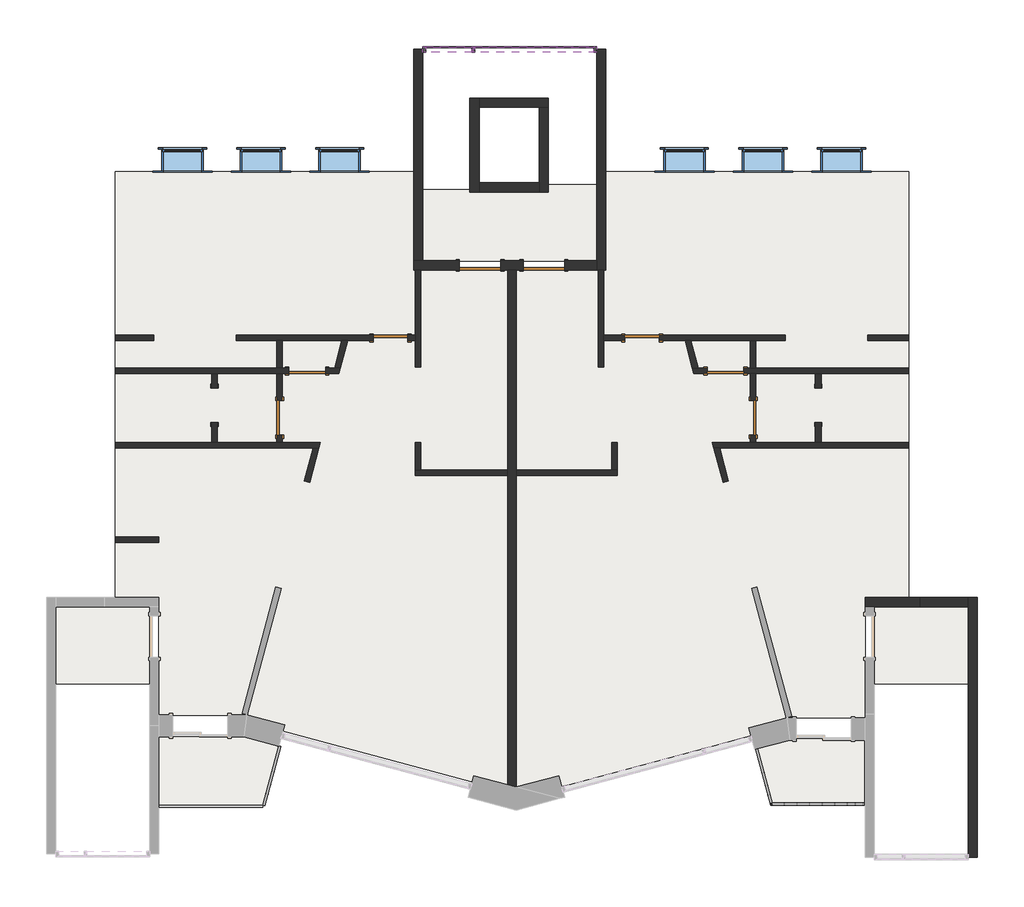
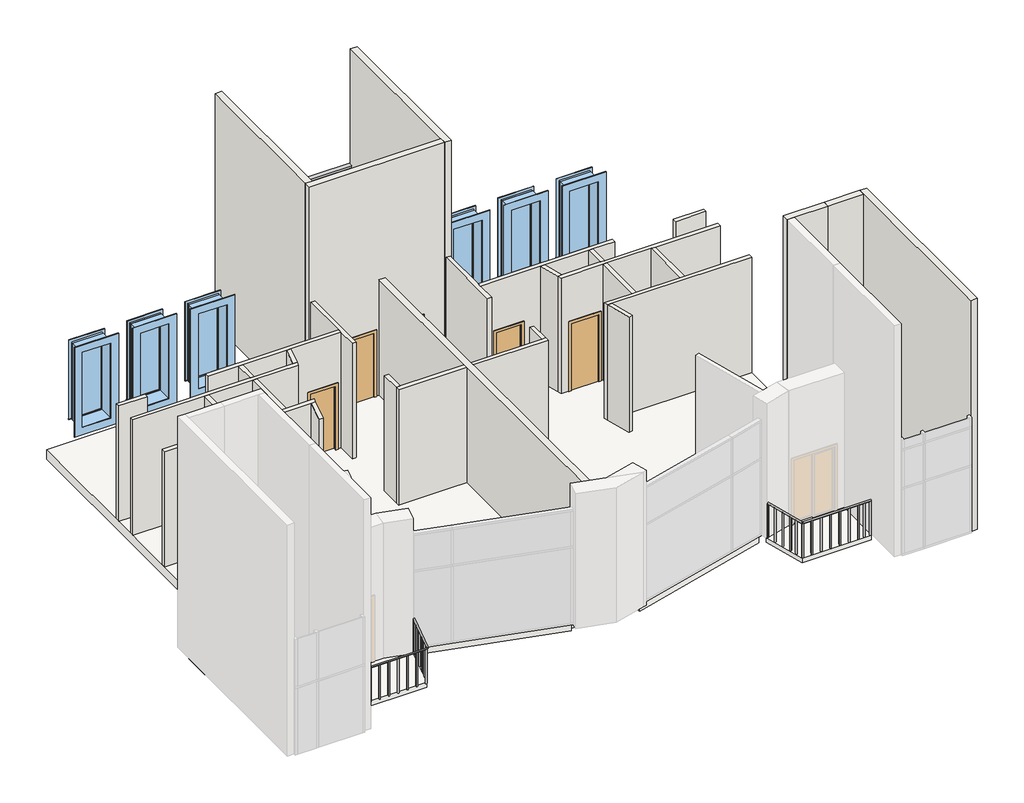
# One storey, part 2 of 2: 36 walls, 10 doors, 10 members, 6 windows, 5 slabs, 4 plates, 2 railings.
"""IFC4 building model written with IfcOpenShell, lengths in millimetres."""

from ifc_helpers import new_model, si_unit, frame, origin, place, context, project, spatial, polyline, outline, extrude, faceted_brep, transform, mapped, element, save
from components import door_1d05c9dd, door_63e5cb32, door_91cbdfe0, door_39079f6b, door_8a652669, door_d21431a2, door_4f2f89b6, door_09f6fe45, glazed_panel_glazed_panel_8a3da2d9, glazed_panel_glazed_panel_b2e43c1a, glazed_panel_glazed_panel_828ecd63, glazed_panel_glazed_panel_80578d28, guardrail_706f17a5, guardrail_720206c2, fixed_153df27d, fixed_cb3a47af

model = new_model("IFC4")

# Units and contexts
model_context = context("Model", 3, world=origin())
ifc_project = project(units=[si_unit("LENGTHUNIT", "METRE", prefix="MILLI")], contexts=[model_context])

# Site, building, storey
site = spatial("IfcSite", under=ifc_project)
building = spatial("IfcBuilding", under=site)
storey = spatial("IfcBuildingStorey", under=building, Name="3rd Flr. Cnst.", Elevation=7315.2)

# Doors
placement = place(None, origin())
door_shape = door_1d05c9dd(model_context)
element("IfcDoor", 1, ObjectType="Cased Opening : 30\" x 80\"", at=placement, inside=storey, context=model_context, shape_type="MappedRepresentation", body=[
    mapped(door_shape, transform((1154.389151, 4198.1652007, 7315.2), x_axis=(0.0, 1.0, 0.0), y_axis=(-1.0, 0.0, 0.0), z_axis=(0.0, 0.0, 1.0))),
])
door_2_shape = door_63e5cb32(model_context)
element("IfcDoor", 2, ObjectType="Cased Opening : 30\" x 80\"", at=placement, inside=storey, context=model_context, shape_type="MappedRepresentation", body=[
    mapped(door_2_shape, transform((14531.590723, 4198.1652007, 7315.2), x_axis=(0.0, 1.0, 0.0), y_axis=(-1.0, 0.0, 0.0), z_axis=(0.0, 0.0, 1.0))),
])
door_3_shape = door_91cbdfe0(model_context)
element("IfcDoor", 3, ObjectType="Sgl Flush : 30\" x 80\"", at=placement, inside=storey, context=model_context, shape_type="MappedRepresentation", body=[
    mapped(door_3_shape, transform((2598.9499515, 3921.9402007, 7315.2), x_axis=(0.0, -1.0, 0.0), y_axis=(1.0, 0.0, 0.0), z_axis=(0.0, 0.0, 1.0))),
])
element("IfcDoor", 4, ObjectType="Sgl Flush : 30\" x 80\"", at=placement, inside=storey, context=model_context, shape_type="MappedRepresentation", body=[
    mapped(door_3_shape, transform((10629.320756, 5693.5902007, 7315.2), x_axis=(-1.0, 0.0, 0.0), y_axis=(0.0, -1.0, 0.0), z_axis=(0.0, 0.0, 1.0))),
])
door_4_shape = door_39079f6b(model_context)
element("IfcDoor", 5, ObjectType="Sgl Flush : 30\" x 80\"", at=placement, inside=storey, context=model_context, shape_type="MappedRepresentation", body=[
    mapped(door_4_shape, transform((5056.659118, 5693.5902007, 7315.2), x_axis=(1.0, 0.0, 0.0), y_axis=(0.0, 1.0, 0.0), z_axis=(0.0, 0.0, 1.0))),
])
element("IfcDoor", 6, ObjectType="Sgl Flush : 30\" x 80\"", at=placement, inside=storey, context=model_context, shape_type="MappedRepresentation", body=[
    mapped(door_4_shape, transform((13087.0299225, 3921.9402007, 7315.2), x_axis=(0.0, -1.0, 0.0), y_axis=(1.0, 0.0, 0.0), z_axis=(0.0, 0.0, 1.0))),
])
door_5_shape = door_8a652669(model_context)
element("IfcDoor", 7, ObjectType="Sgl Flush : 32\" x 84\"", at=placement, inside=storey, context=model_context, shape_type="MappedRepresentation", body=[
    mapped(door_5_shape, transform((3208.5499515, 4960.1652007, 7315.2), x_axis=(-1.0, 0.0, 0.0), y_axis=(0.0, -1.0, 0.0), z_axis=(0.0, 0.0, 1.0))),
])
door_6_shape = door_d21431a2(model_context)
element("IfcDoor", 8, ObjectType="Sgl Flush : 32\" x 84\"", at=placement, inside=storey, context=model_context, shape_type="MappedRepresentation", body=[
    mapped(door_6_shape, transform((12477.4299225, 4960.1652007, 7315.2), x_axis=(1.0, 0.0, 0.0), y_axis=(0.0, 1.0, 0.0), z_axis=(0.0, 0.0, 1.0))),
])
door_7_shape = door_4f2f89b6(model_context)
element("IfcDoor", 9, ObjectType="Sgl Flush : 36\" x 80\"", at=placement, inside=storey, context=model_context, shape_type="MappedRepresentation", body=[
    mapped(door_7_shape, transform((8452.321618, 7303.0333186, 7315.2), x_axis=(-1.0, 0.0, 0.0), y_axis=(0.0, -1.0, 0.0), z_axis=(0.0, 0.0, 1.0))),
])
door_8_shape = door_09f6fe45(model_context)
element("IfcDoor", 10, ObjectType="Sgl Flush : 36\" x 80\"", at=placement, inside=storey, context=model_context, shape_type="MappedRepresentation", body=[
    mapped(door_8_shape, transform((7039.446618, 7303.0333186, 7315.2), x_axis=(1.0, 0.0, 0.0), y_axis=(0.0, 1.0, 0.0), z_axis=(0.0, 0.0, 1.0))),
])

# Members
element("IfcMember", 11, ObjectType="Rectangular Mullion : 2.5\" x 5\" rectangular", at=placement, inside=storey, context=model_context, shape_type="SweptSolid", body=[
    extrude(outline(polyline([(6917.209118, 12025.0152895), (6853.709118, 12025.0152895), (6853.709118, 12152.0152895), (6917.209118, 12152.0152895), (6917.209118, 12025.0152895)])), frame((0.0, 0.0, 7315.2), z_axis=(0.0, 0.0, 1.0), x_axis=(1.0, 0.0, 0.0)), (0.0, 0.0, 1.0), 2406.65),
])
element("IfcMember", 12, ObjectType="Rectangular Mullion : 2.5\" x 5\" rectangular", at=placement, inside=storey, context=model_context, shape_type="SweptSolid", body=[
    extrude(outline(polyline([(6917.209118, 12025.0152895), (6853.709118, 12025.0152895), (6853.709118, 12152.0152895), (6917.209118, 12152.0152895), (6917.209118, 12025.0152895)])), frame((0.0, 0.0, 9785.35), z_axis=(0.0, 0.0, 1.0), x_axis=(1.0, 0.0, 0.0)), (0.0, 0.0, 1.0), 1123.95),
])
element("IfcMember", 13, ObjectType="Rectangular Mullion : 2.5\" x 5\" rectangular", at=placement, inside=storey, context=model_context, shape_type="SweptSolid", body=[
    extrude(outline(polyline([(9618.6821195, 12025.0152895), (9555.1821195, 12025.0152895), (9555.1821195, 12152.0152895), (9618.6821195, 12152.0152895), (9618.6821195, 12025.0152895)])), frame((0.0, 0.0, 7315.2), z_axis=(0.0, 0.0, 1.0), x_axis=(1.0, 0.0, 0.0)), (0.0, 0.0, 1.0), 2406.65),
])
element("IfcMember", 14, ObjectType="Rectangular Mullion : 2.5\" x 5\" rectangular", at=placement, inside=storey, context=model_context, shape_type="SweptSolid", body=[
    extrude(outline(polyline([(9618.6821195, 12025.0152895), (9555.1821195, 12025.0152895), (9555.1821195, 12152.0152895), (9618.6821195, 12152.0152895), (9618.6821195, 12025.0152895)])), frame((0.0, 0.0, 9785.35), z_axis=(0.0, 0.0, 1.0), x_axis=(1.0, 0.0, 0.0)), (0.0, 0.0, 1.0), 1123.95),
])
element("IfcMember", 15, ObjectType="Rectangular Mullion : 2.5\" x 5\" rectangular", at=placement, inside=storey, context=model_context, shape_type="SweptSolid", body=[
    extrude(outline(polyline([(6885.459118, 12152.0152895), (6885.459118, 12025.0152895), (5767.859118, 12025.0152895), (5767.859118, 12152.0152895), (6885.459118, 12152.0152895)])), frame((0.0, 0.0, 9721.85), z_axis=(0.0, 0.0, 1.0), x_axis=(1.0, 0.0, 0.0)), (0.0, 0.0, 1.0), 63.5),
])
element("IfcMember", 16, ObjectType="Rectangular Mullion : 2.5\" x 5\" rectangular", at=placement, inside=storey, context=model_context, shape_type="SweptSolid", body=[
    extrude(outline(polyline([(9618.6821195, 12152.0152895), (9618.6821195, 12025.0152895), (6885.459118, 12025.0152895), (6885.459118, 12152.0152895), (9618.6821195, 12152.0152895)])), frame((0.0, 0.0, 9721.85), z_axis=(0.0, 0.0, 1.0), x_axis=(1.0, 0.0, 0.0)), (0.0, 0.0, 1.0), 63.5),
])
element("IfcMember", 17, ObjectType="Rectangular Mullion : 2.5\" x 5\" rectangular", at=placement, inside=storey, context=model_context, shape_type="SweptSolid", body=[
    extrude(outline(polyline([(5767.859118, 12025.0152895), (5767.859118, 12152.0152895), (5831.359118, 12152.0152895), (5831.359118, 12025.0152895), (5767.859118, 12025.0152895)])), frame((0.0, 0.0, 9785.35), z_axis=(0.0, 0.0, 1.0), x_axis=(1.0, 0.0, 0.0)), (0.0, 0.0, 1.0), 1123.95),
])
element("IfcMember", 18, ObjectType="Rectangular Mullion : 2.5\" x 5\" rectangular", at=placement, inside=storey, context=model_context, shape_type="SweptSolid", body=[
    extrude(outline(polyline([(5767.859118, 12025.0152895), (5767.859118, 12152.0152895), (5831.359118, 12152.0152895), (5831.359118, 12025.0152895), (5767.859118, 12025.0152895)])), frame((0.0, 0.0, 7315.2), z_axis=(0.0, 0.0, 1.0), x_axis=(1.0, 0.0, 0.0)), (0.0, 0.0, 1.0), 2406.65),
])
element("IfcMember", 19, ObjectType="Rectangular Mullion : 2.5\" x 5\" rectangular", at=placement, inside=storey, context=model_context, shape_type="SweptSolid", body=[
    extrude(outline(polyline([(9618.6821195, 12152.0152895), (9618.6821195, 12025.0152895), (6885.459118, 12025.0152895), (6885.459118, 12152.0152895), (9618.6821195, 12152.0152895)])), frame((0.0, 0.0, 10909.3), z_axis=(0.0, 0.0, 1.0), x_axis=(1.0, 0.0, 0.0)), (0.0, 0.0, 1.0), 63.5),
])
element("IfcMember", 20, ObjectType="Rectangular Mullion : 2.5\" x 5\" rectangular", at=placement, inside=storey, context=model_context, shape_type="SweptSolid", body=[
    extrude(outline(polyline([(6885.459118, 12152.0152895), (6885.459118, 12025.0152895), (5767.859118, 12025.0152895), (5767.859118, 12152.0152895), (6885.459118, 12152.0152895)])), frame((0.0, 0.0, 10909.3), z_axis=(0.0, 0.0, 1.0), x_axis=(1.0, 0.0, 0.0)), (0.0, 0.0, 1.0), 63.5),
])

# Plates
glazed_panel_glazed_panel_shape = glazed_panel_glazed_panel_8a3da2d9(model_context)
element("IfcPlate", 21, ObjectType="Glazed Panel : Glazed Panel", at=placement, inside=storey, context=model_context, shape_type="MappedRepresentation", body=[
    mapped(glazed_panel_glazed_panel_shape, transform((6342.534118, 12088.5152895, 9785.35), x_axis=(1.0, 0.0, 0.0), y_axis=(0.0, 1.0, 0.0), z_axis=(0.0, 0.0, 1.0))),
])
glazed_panel_glazed_panel_2_shape = glazed_panel_glazed_panel_b2e43c1a(model_context)
element("IfcPlate", 22, ObjectType="Glazed Panel : Glazed Panel", at=placement, inside=storey, context=model_context, shape_type="MappedRepresentation", body=[
    mapped(glazed_panel_glazed_panel_2_shape, transform((8236.1956187, 12088.5152895, 9785.35), x_axis=(1.0, 0.0, 0.0), y_axis=(0.0, 1.0, 0.0), z_axis=(0.0, 0.0, 1.0))),
])
glazed_panel_glazed_panel_3_shape = glazed_panel_glazed_panel_828ecd63(model_context)
element("IfcPlate", 23, ObjectType="Glazed Panel : Glazed Panel", at=placement, inside=storey, context=model_context, shape_type="MappedRepresentation", body=[
    mapped(glazed_panel_glazed_panel_3_shape, transform((6342.534118, 12088.5152895, 7315.2), x_axis=(1.0, 0.0, 0.0), y_axis=(0.0, 1.0, 0.0), z_axis=(0.0, 0.0, 1.0))),
])
glazed_panel_glazed_panel_4_shape = glazed_panel_glazed_panel_80578d28(model_context)
element("IfcPlate", 24, ObjectType="Glazed Panel : Glazed Panel", at=placement, inside=storey, context=model_context, shape_type="MappedRepresentation", body=[
    mapped(glazed_panel_glazed_panel_4_shape, transform((8236.1956187, 12088.5152895, 7315.2), x_axis=(1.0, 0.0, 0.0), y_axis=(0.0, 1.0, 0.0), z_axis=(0.0, 0.0, 1.0))),
])

# Railings
guardrail_shape = guardrail_706f17a5(model_context)
element("IfcRailing", 25, ObjectType="Guardrail", at=placement, inside=storey, context=model_context, shape_type="MappedRepresentation", body=[
    mapped(guardrail_shape, transform((0.0, 0.0, 0.0), x_axis=(1.0, 0.0, 0.0), y_axis=(0.0, 1.0, 0.0), z_axis=(0.0, 0.0, 1.0))),
])
guardrail_2_shape = guardrail_720206c2(model_context)
element("IfcRailing", 26, ObjectType="Guardrail", at=placement, inside=storey, context=model_context, shape_type="MappedRepresentation", body=[
    mapped(guardrail_2_shape, transform((0.0, 0.0, 0.0), x_axis=(1.0, 0.0, 0.0), y_axis=(0.0, 1.0, 0.0), z_axis=(0.0, 0.0, 1.0))),
])

# Slabs
element("IfcSlab", 27, ObjectType="Balcony", at=placement, inside=storey, context=model_context, shape_type="SweptSolid", body=[
    extrude(outline(polyline([(-79.7882773, -4665.9615122), (-79.7882773, -3146.0360863), (1799.5068523, -3146.0360863), (2575.4903005, -3353.9602245), (2223.940615, -4665.9615122), (-79.7882773, -4665.9615122)])), frame((0.0, 0.0, 7162.8), z_axis=(0.0, 0.0, 1.0), x_axis=(1.0, 0.0, 0.0)), (0.0, 0.0, 1.0), 152.4),
])
element("IfcSlab", 28, ObjectType="Balcony", at=placement, inside=storey, context=model_context, shape_type="SweptSolid", body=[
    extrude(outline(polyline([(15549.0835198, -4665.9615122), (13474.0934545, -4665.9615122), (13133.7402783, -3395.7461659), (13878.4113024, -3196.2121664), (15549.0835198, -3196.2121664), (15549.0835198, -4665.9615122)])), frame((0.0, 0.0, 7162.8), z_axis=(0.0, 0.0, 1.0), x_axis=(1.0, 0.0, 0.0)), (0.0, 0.0, 1.0), 152.4),
])
element("IfcSlab", 29, ObjectType="Floor 1", at=placement, inside=storey, context=model_context, shape_type="SweptSolid", body=[
    extrude(outline(polyline([(9619.2126579, 7397.5342127), (5768.3896565, 7397.5342127), (5768.3896565, 8979.5661862), (6814.1405221, 8979.5661862), (6814.1405221, 8921.5342127), (8552.4126579, 8921.5342127), (8550.2528676, 9090.8355855), (9619.2126579, 9090.8355855), (9619.2126579, 7397.5342127)])), frame((0.0, 0.0, 7010.4), z_axis=(0.0, 0.0, 1.0), x_axis=(1.0, 0.0, 0.0)), (0.0, 0.0, 1.0), 304.8),
])
element("IfcSlab", 30, ObjectType="Floor 1", at=placement, inside=storey, context=model_context, shape_type="SweptSolid", body=[
    extrude(outline(polyline([(-2361.3002317, -279.0545325), (-278.5002317, -279.0545325), (-278.5002317, -1979.7458852), (-2361.3002317, -1979.7458852), (-2361.3002317, -279.0545325)])), frame((0.0, 0.0, 7010.4), z_axis=(0.0, 0.0, 1.0), x_axis=(1.0, 0.0, 0.0)), (0.0, 0.0, 1.0), 304.8),
    extrude(outline(polyline([(15779.0622683, -274.2920325), (17861.8622683, -274.2920325), (17861.8622683, -1974.9833852), (15779.0622683, -1974.9833852), (15779.0622683, -274.2920325)])), frame((0.0, 0.0, 7010.4), z_axis=(0.0, 0.0, 1.0), x_axis=(1.0, 0.0, 0.0)), (0.0, 0.0, 1.0), 304.8),
])
element("IfcSlab", 31, ObjectType="Floor 1", at=placement, inside=storey, context=model_context, shape_type="SweptSolid", body=[
    extrude(outline(polyline([(-1046.6671832, 9380.315854), (4949.3203168, 9380.315854), (5558.9203168, 9380.315854), (5558.9203168, 7192.740854), (9818.5371021, 7192.740854), (9818.5371021, 9380.315854), (16531.7453846, 9380.315854), (16531.7453846, -71.659146), (15568.1328846, -71.659146), (15565.7391007, -2734.3502435), (13829.2324063, -2734.3502435), (13006.8259977, -2954.7133765), (13054.4875249, -3132.5886175), (8843.0439026, -4261.041535), (8777.4549844, -4016.26036), (7785.4605205, -4282.0644755), (6888.0698545, -4011.3298572), (6852.4040642, -4144.4363989), (2656.3818501, -3020.1156352), (2692.0476405, -2887.0090935), (1869.6412319, -2666.6459605), (1744.4692088, -2668.809146), (-83.0546832, -2668.809146), (-83.0546832, -71.659146), (-1046.6671832, -71.659146), (-1046.6671832, 9380.315854)])), frame((0.0, 0.0, 7010.4), z_axis=(0.0, 0.0, 1.0), x_axis=(1.0, 0.0, 0.0)), (0.0, 0.0, 1.0), 304.8),
])

# Walls
element("IfcWall", 32, ObjectType="Cohouse - Exterior - Conc", at=placement, inside=storey, context=model_context, shape_type="Brep", body=[
    faceted_brep([(9821.8821195, 7201.4333186, 7315.2), (9821.8821195, 12088.5152895, 7315.2), (9821.8821195, 12088.5152895, 14630.4), (9821.8821195, 7201.4333186, 14630.4), (9618.6821195, 7201.4333186, 7315.2), (9618.6821195, 7201.4333186, 14630.4), (9618.6821195, 7404.6333186, 14630.4), (9618.6821195, 12088.5152895, 14630.4), (9618.6821195, 12088.5152895, 7315.2), (9618.6821195, 7404.6333186, 7315.2), (9782.1946195, 7201.4333186, 7315.2), (9658.3696195, 7201.4333186, 7315.2)], [[[0, 1, 2, 3]], [[4, 5, 6, 7, 8, 9]], [[1, 0, 10, 11, 4, 9, 8]], [[2, 1, 8, 7]], [[3, 2, 7, 6, 5]], [[0, 3, 5, 4, 11, 10]]]),
])
element("IfcWall", 33, ObjectType="Cohouse - Exterior - Conc", at=placement, inside=storey, context=model_context, shape_type="Brep", body=[
    faceted_brep([(7016.8099837, 8928.6333186, 7315.2), (7016.8099837, 9131.8333186, 7315.2), (7016.8099837, 10803.1376461, 7315.2), (7016.8099837, 11006.3376461, 7315.2), (7016.8099837, 11006.3376461, 10972.8), (7016.8099837, 10803.1376461, 10972.8), (7016.8099837, 9131.8333186, 10972.8), (7016.8099837, 8928.6333186, 10972.8), (6813.6099837, 8928.6333186, 7315.2), (6813.6099837, 8928.6333186, 10972.8), (6813.6099837, 11006.3376461, 10972.8), (6813.6099837, 11006.3376461, 7315.2)], [[[0, 1, 2, 3, 4, 5, 6, 7]], [[8, 9, 10, 11]], [[3, 2, 1, 0, 8, 11]], [[7, 6, 5, 4, 10, 9]], [[4, 3, 11, 10]], [[0, 7, 9, 8]]]),
])
element("IfcWall", 34, ObjectType="Cohouse - Exterior - Conc", at=placement, inside=storey, context=model_context, shape_type="Brep", body=[
    faceted_brep([(7016.8099837, 10803.1376461, 7315.2), (8348.6821195, 10803.1376461, 7315.2), (8551.8821195, 10803.1376461, 7315.2), (8551.8821195, 10803.1376461, 10972.8), (8348.6821195, 10803.1376461, 10972.8), (7016.8099837, 10803.1376461, 10972.8), (7016.8099837, 11006.3376461, 7315.2), (7016.8099837, 11006.3376461, 10972.8), (8551.8821195, 11006.3376461, 10972.8), (8551.8821195, 11006.3376461, 7315.2)], [[[0, 1, 2, 3, 4, 5]], [[6, 7, 8, 9]], [[2, 1, 0, 6, 9]], [[5, 4, 3, 8, 7]], [[3, 2, 9, 8]], [[0, 5, 7, 6]]]),
])
element("IfcWall", 35, ObjectType="Cohouse - Exterior - Conc", at=placement, inside=storey, context=model_context, shape_type="Brep", body=[
    faceted_brep([(8348.6821195, 10803.1376461, 7315.2), (8348.6821195, 9131.8333186, 7315.2), (8348.6821195, 8928.6333186, 7315.2), (8348.6821195, 8928.6333186, 10972.8), (8348.6821195, 9131.8333186, 10972.8), (8348.6821195, 10803.1376461, 10972.8), (8551.8821195, 10803.1376461, 7315.2), (8551.8821195, 10803.1376461, 10972.8), (8551.8821195, 8928.6333186, 10972.8), (8551.8821195, 8928.6333186, 7315.2)], [[[0, 1, 2, 3, 4, 5]], [[6, 7, 8, 9]], [[2, 1, 0, 6, 9]], [[5, 4, 3, 8, 7]], [[3, 2, 9, 8]], [[0, 5, 7, 6]]]),
])
element("IfcWall", 36, ObjectType="Cohouse - Exterior - Conc", at=placement, inside=storey, context=model_context, shape_type="SweptSolid", body=[
    extrude(outline(polyline([(8348.6821195, 8928.6333186), (7016.8099837, 8928.6333186), (7016.8099837, 9131.8333186), (8348.6821195, 9131.8333186), (8348.6821195, 8928.6333186)])), frame((0.0, 0.0, 7315.2), z_axis=(0.0, 0.0, 1.0), x_axis=(1.0, 0.0, 0.0)), (0.0, 0.0, 1.0), 3657.6),
])
element("IfcWall", 37, ObjectType="Cohouse - Exterior - Conc", at=placement, inside=storey, context=model_context, shape_type="Brep", body=[
    faceted_brep([(7496.646618, 7201.4333186, 7315.2), (7649.046618, 7201.4333186, 7315.2), (7842.721618, 7201.4333186, 7315.2), (7995.121618, 7201.4333186, 7315.2), (7995.121618, 7201.4333186, 9347.2), (8909.521618, 7201.4333186, 9347.2), (8909.521618, 7201.4333186, 7315.2), (9618.6821195, 7201.4333186, 7315.2), (9618.6821195, 7201.4333186, 14630.4), (5564.659118, 7201.4333186, 14630.4), (5564.659118, 7201.4333186, 7315.2), (5604.346618, 7201.4333186, 7315.2), (5728.171618, 7201.4333186, 7315.2), (6582.246618, 7201.4333186, 7315.2), (6582.246618, 7201.4333186, 9347.2), (7496.646618, 7201.4333186, 9347.2), (7995.121618, 7404.6333186, 9347.2), (7995.121618, 7404.6333186, 7315.2), (7496.646618, 7404.6333186, 7315.2), (7496.646618, 7404.6333186, 9347.2), (6582.246618, 7404.6333186, 9347.2), (6582.246618, 7404.6333186, 7315.2), (5767.859118, 7404.6333186, 7315.2), (5564.659118, 7404.6333186, 7315.2), (5564.659118, 7404.6333186, 14630.4), (5767.859118, 7404.6333186, 14630.4), (9618.6821195, 7404.6333186, 14630.4), (9618.6821195, 7404.6333186, 7315.2), (8909.521618, 7404.6333186, 7315.2), (8909.521618, 7404.6333186, 9347.2)], [[[0, 1, 2, 3, 4, 5, 6, 7, 8, 9, 10, 11, 12, 13, 14, 15]], [[16, 17, 18, 19, 20, 21, 22, 23, 24, 25, 26, 27, 28, 29]], [[18, 17, 3, 2, 1, 0]], [[13, 12, 11, 10, 23, 22, 21]], [[28, 27, 7, 6]], [[9, 8, 26, 25, 24]], [[10, 9, 24, 23]], [[8, 7, 27, 26]], [[19, 18, 0, 15]], [[20, 19, 15, 14]], [[21, 20, 14, 13]], [[4, 3, 17, 16]], [[5, 4, 16, 29]], [[6, 5, 29, 28]]]),
])
element("IfcWall", 38, ObjectType="Cohouse - Exterior - Conc", at=placement, inside=storey, context=model_context, shape_type="SweptSolid", body=[
    extrude(outline(polyline([(5767.859118, 12088.5152895), (5767.859118, 7404.6333186), (5564.659118, 7404.6333186), (5564.659118, 12088.5152895), (5767.859118, 12088.5152895)])), frame((0.0, 0.0, 7315.2), z_axis=(0.0, 0.0, 1.0), x_axis=(1.0, 0.0, 0.0)), (0.0, 0.0, 1.0), 7315.2),
])
element("IfcWall", 39, ObjectType="Cohouse - Exterior - Conc", at=placement, inside=storey, context=model_context, shape_type="Brep", body=[
    faceted_brep([(15569.084118, -266.1666814, 7315.2), (15772.284118, -266.1666814, 7315.2), (16785.109118, -266.1666814, 7315.2), (16785.109118, -266.1666814, 14630.4), (15772.284118, -266.1666814, 14630.4), (15569.084118, -266.1666814, 14630.4), (15569.084118, -62.9666814, 7315.2), (15569.084118, -62.9666814, 14630.4), (16785.109118, -62.9666814, 14630.4), (16785.109118, -62.9666814, 7315.2), (16785.109118, -69.6992683, 7315.2)], [[[0, 1, 2, 3, 4, 5]], [[6, 7, 8, 9]], [[2, 1, 0, 6, 9, 10]], [[3, 2, 10, 9, 8]], [[5, 4, 3, 8, 7]], [[0, 5, 7, 6]]]),
])
element("IfcWall", 40, ObjectType="Cohouse - Exterior - Conc", at=placement, inside=storey, context=model_context, shape_type="Brep", body=[
    faceted_brep([(17855.084118, -62.9666814, 7315.2), (17855.084118, -69.6992683, 7315.2), (17855.084118, -266.1666814, 7315.2), (17855.084118, -5816.4636494, 7315.2), (17855.084118, -5816.4636494, 14630.4), (17855.084118, -266.1666814, 14630.4), (17855.084118, -62.9666814, 14630.4), (18058.284118, -62.9666814, 7315.2), (18058.284118, -62.9666814, 14630.4), (18058.284118, -5816.4636494, 14630.4), (18058.284118, -5816.4636494, 7315.2), (18058.284118, -69.6992683, 7315.2)], [[[0, 1, 2, 3, 4, 5, 6]], [[7, 8, 9, 10, 11]], [[3, 2, 1, 0, 7, 11, 10]], [[4, 3, 10, 9]], [[6, 5, 4, 9, 8]], [[0, 6, 8, 7]]]),
])
element("IfcWall", 41, ObjectType="Cohouse - Exterior - Conc", at=placement, inside=storey, context=model_context, shape_type="Brep", body=[
    faceted_brep([(16785.109118, -266.1666814, 7315.2), (17855.084118, -266.1666814, 7315.2), (17855.084118, -266.1666814, 14630.4), (16785.109118, -266.1666814, 14630.4), (16785.109118, -62.9666814, 7315.2), (16785.109118, -62.9666814, 14630.4), (17855.084118, -62.9666814, 14630.4), (17855.084118, -62.9666814, 7315.2), (16785.109118, -69.6992683, 7315.2)], [[[0, 1, 2, 3]], [[4, 5, 6, 7]], [[1, 0, 8, 4, 7]], [[3, 2, 6, 5]], [[0, 3, 5, 4, 8]], [[2, 1, 7, 6]]]),
])
element("IfcWall", 42, ObjectType="Cohouse - Interior - 4 7/8\" Partition (1-hr)", at=placement, inside=storey, context=model_context, shape_type="Brep", body=[
    faceted_brep([(5604.346618, 7201.4333186, 7315.2), (5604.346618, 5755.5027007, 7315.2), (5604.346618, 5631.6777007, 7315.2), (5604.346618, 5050.6527007, 7315.2), (5604.346618, 5050.6527007, 10972.8), (5604.346618, 5631.6777007, 10972.8), (5604.346618, 5755.5027007, 10972.8), (5604.346618, 7201.4333186, 10972.8), (5728.171618, 7201.4333186, 7315.2), (5728.171618, 7201.4333186, 10972.8), (5728.171618, 5050.6527007, 10972.8), (5728.171618, 5050.6527007, 7315.2)], [[[0, 1, 2, 3, 4, 5, 6, 7]], [[8, 9, 10, 11]], [[3, 2, 1, 0, 8, 11]], [[4, 3, 11, 10]], [[7, 6, 5, 4, 10, 9]], [[0, 7, 9, 8]]]),
])
element("IfcWall", 43, ObjectType="Cohouse - Interior - 4 7/8\" Partition (1-hr)", at=placement, inside=storey, context=model_context, shape_type="Brep", body=[
    faceted_brep([(-1045.690882, 3250.4277007, 7315.2), (3338.9393518, 3250.4277007, 7315.2), (3467.1324248, 3250.4277007, 7315.2), (3467.1324248, 3250.4277007, 10972.8), (3338.9393518, 3250.4277007, 10972.8), (-1045.690882, 3250.4277007, 10972.8), (-1045.690882, 3374.2527007, 7315.2), (-1045.690882, 3374.2527007, 10972.8), (1092.476651, 3374.2527007, 10972.8), (1216.301651, 3374.2527007, 10972.8), (2537.0374515, 3374.2527007, 10972.8), (2660.8624515, 3374.2527007, 10972.8), (3500.3112336, 3374.2527007, 10972.8), (3500.3112336, 3374.2527007, 7315.2), (2660.8624515, 3374.2527007, 7315.2), (2537.0374515, 3374.2527007, 7315.2), (1216.301651, 3374.2527007, 7315.2), (1092.476651, 3374.2527007, 7315.2)], [[[0, 1, 2, 3, 4, 5]], [[6, 7, 8, 9, 10, 11, 12, 13, 14, 15, 16, 17]], [[2, 1, 0, 6, 17, 16, 15, 14, 13]], [[5, 4, 3, 12, 11, 10, 9, 8, 7]], [[3, 2, 13, 12]], [[0, 5, 7, 6]]]),
])
element("IfcWall", 44, ObjectType="Cohouse - Interior - 4 7/8\" Partition (1-hr)", at=placement, inside=storey, context=model_context, shape_type="SweptSolid", body=[
    extrude(outline(polyline([(3467.1324248, 3250.4277007), (3264.135703, 2492.8336212), (3144.5299376, 2524.8818895), (3338.9393518, 3250.4277007), (3467.1324248, 3250.4277007)])), frame((0.0, 0.0, 7315.2), z_axis=(0.0, 0.0, 1.0), x_axis=(1.0, 0.0, 0.0)), (0.0, 0.0, 1.0), 3657.6),
])
element("IfcWall", 45, ObjectType="Cohouse - Interior - 4 7/8\" Partition (1-hr)", at=placement, inside=storey, context=model_context, shape_type="Brep", body=[
    faceted_brep([(7649.046618, 2764.6527007, 7315.2), (5728.171618, 2764.6527007, 7315.2), (5604.346618, 2764.6527007, 7315.2), (5604.346618, 2764.6527007, 10972.8), (5728.171618, 2764.6527007, 10972.8), (7649.046618, 2764.6527007, 10972.8), (7649.046618, 2640.8277007, 7315.2), (7649.046618, 2640.8277007, 10972.8), (5604.346618, 2640.8277007, 10972.8), (5604.346618, 2640.8277007, 7315.2)], [[[0, 1, 2, 3, 4, 5]], [[6, 7, 8, 9]], [[2, 1, 0, 6, 9]], [[5, 4, 3, 8, 7]], [[3, 2, 9, 8]], [[0, 5, 7, 6]]]),
])
element("IfcWall", 46, ObjectType="Cohouse - Interior - 4 7/8\" Partition (1-hr)", at=placement, inside=storey, context=model_context, shape_type="SweptSolid", body=[
    extrude(outline(polyline([(5728.171618, 3374.2527007), (5728.171618, 2764.6527007), (5604.346618, 2764.6527007), (5604.346618, 3374.2527007), (5728.171618, 3374.2527007)])), frame((0.0, 0.0, 7315.2), z_axis=(0.0, 0.0, 1.0), x_axis=(1.0, 0.0, 0.0)), (0.0, 0.0, 1.0), 3657.6),
])
element("IfcWall", 47, ObjectType="Cohouse - Interior - 4 7/8\" Partition (1-hr)", at=placement, inside=storey, context=model_context, shape_type="SweptSolid", body=[
    extrude(outline(polyline([(-77.315882, 1156.2333186), (-1045.690882, 1156.2333186), (-1045.690882, 1280.0583186), (-77.315882, 1280.0583186), (-77.315882, 1156.2333186)])), frame((0.0, 0.0, 7315.2), z_axis=(0.0, 0.0, 1.0), x_axis=(1.0, 0.0, 0.0)), (0.0, 0.0, 1.0), 3657.6),
])
element("IfcWall", 48, ObjectType="Cohouse - Interior - 4 7/8\" Partition (1-hr)", at=placement, inside=storey, context=model_context, shape_type="Brep", body=[
    faceted_brep([(-1045.690882, 4898.2527007, 7315.2), (1092.476651, 4898.2527007, 7315.2), (1216.301651, 4898.2527007, 7315.2), (2537.0374515, 4898.2527007, 7315.2), (2660.8624515, 4898.2527007, 7315.2), (2802.1499515, 4898.2527007, 7315.2), (2802.1499515, 4898.2527007, 9448.8), (3614.9499515, 4898.2527007, 9448.8), (3614.9499515, 4898.2527007, 7315.2), (3908.6658028, 4898.2527007, 7315.2), (3908.6658028, 4898.2527007, 10972.8), (2660.8624515, 4898.2527007, 10972.8), (2537.0374515, 4898.2527007, 10972.8), (1216.301651, 4898.2527007, 10972.8), (1092.476651, 4898.2527007, 10972.8), (-1045.690882, 4898.2527007, 10972.8), (2802.1499515, 5022.0777007, 9448.8), (2802.1499515, 5022.0777007, 7315.2), (2660.8624515, 5022.0777007, 7315.2), (2537.0374515, 5022.0777007, 7315.2), (-1045.690882, 5022.0777007, 7315.2), (-1045.690882, 5022.0777007, 10972.8), (2537.0374515, 5022.0777007, 10972.8), (2660.8624515, 5022.0777007, 10972.8), (3813.6515385, 5022.0777007, 10972.8), (3941.8446116, 5022.0777007, 10972.8), (3941.8446116, 5022.0777007, 7315.2), (3813.6515385, 5022.0777007, 7315.2), (3614.9499515, 5022.0777007, 7315.2), (3614.9499515, 5022.0777007, 9448.8)], [[[0, 1, 2, 3, 4, 5, 6, 7, 8, 9, 10, 11, 12, 13, 14, 15]], [[16, 17, 18, 19, 20, 21, 22, 23, 24, 25, 26, 27, 28, 29]], [[20, 19, 18, 17, 5, 4, 3, 2, 1, 0]], [[28, 27, 26, 9, 8]], [[15, 14, 13, 12, 11, 10, 25, 24, 23, 22, 21]], [[10, 9, 26, 25]], [[0, 15, 21, 20]], [[6, 5, 17, 16]], [[7, 6, 16, 29]], [[8, 7, 29, 28]]]),
])
element("IfcWall", 49, ObjectType="Cohouse - Interior - 4 7/8\" Partition (1-hr)", at=placement, inside=storey, context=model_context, shape_type="SweptSolid", body=[
    extrude(outline(polyline([(2660.8624515, 5631.6777007), (2660.8624515, 5022.0777007), (2537.0374515, 5022.0777007), (2537.0374515, 5631.6777007), (2660.8624515, 5631.6777007)])), frame((0.0, 0.0, 7315.2), z_axis=(0.0, 0.0, 1.0), x_axis=(1.0, 0.0, 0.0)), (0.0, 0.0, 1.0), 3657.6),
])
element("IfcWall", 50, ObjectType="Cohouse - Interior - 4 7/8\" Partition (1-hr)", at=placement, inside=storey, context=model_context, shape_type="SweptSolid", body=[
    extrude(outline(polyline([(-195.6046799, 5631.6777007), (-1045.690882, 5631.6777007), (-1045.690882, 5755.5027007), (-195.6046799, 5755.5027007), (-195.6046799, 5631.6777007)])), frame((0.0, 0.0, 7315.2), z_axis=(0.0, 0.0, 1.0), x_axis=(1.0, 0.0, 0.0)), (0.0, 0.0, 1.0), 3657.6),
])
element("IfcWall", 51, ObjectType="Cohouse - Interior - 4 7/8\" Partition (1-hr)", at=placement, inside=storey, context=model_context, shape_type="SweptSolid", body=[
    extrude(outline(polyline([(3540.9402007, 9347.2), (3540.9402007, 7315.2), (3374.2527007, 7315.2), (3374.2527007, 10972.8), (4898.2527007, 10972.8), (4898.2527007, 7315.2), (4302.9402007, 7315.2), (4302.9402007, 9347.2), (3540.9402007, 9347.2)])), frame((2537.0374515, 0.0, 0.0), z_axis=(1.0, 0.0, 0.0), x_axis=(0.0, 1.0, 0.0)), (0.0, 0.0, 1.0), 123.825),
])
element("IfcWall", 52, ObjectType="Cohouse - Interior - 4 7/8\" Partition (1-hr)", at=placement, inside=storey, context=model_context, shape_type="SweptSolid", body=[
    extrude(outline(polyline([(4105.1864393, 5631.6777007), (3941.8446116, 5022.0777007), (3813.6515385, 5022.0777007), (3976.9933663, 5631.6777007), (4105.1864393, 5631.6777007)])), frame((0.0, 0.0, 7315.2), z_axis=(0.0, 0.0, 1.0), x_axis=(1.0, 0.0, 0.0)), (0.0, 0.0, 1.0), 3657.6),
])
element("IfcWall", 53, ObjectType="Cohouse - Interior - 4 7/8\" Partition (1-hr)", at=placement, inside=storey, context=model_context, shape_type="SweptSolid", body=[
    extrude(outline(polyline([(4898.2527007, 7315.2), (4579.1652007, 7315.2), (4579.1652007, 9347.2), (3817.1652007, 9347.2), (3817.1652007, 7315.2), (3374.2527007, 7315.2), (3374.2527007, 10972.8), (4898.2527007, 10972.8), (4898.2527007, 7315.2)])), frame((1092.476651, 0.0, 0.0), z_axis=(1.0, 0.0, 0.0), x_axis=(0.0, 1.0, 0.0)), (0.0, 0.0, 1.0), 123.825),
])
element("IfcWall", 54, ObjectType="Cohouse - Interior - 4 7/8\" Partition (1-hr)", at=placement, inside=storey, context=model_context, shape_type="Brep", body=[
    faceted_brep([(5437.659118, 5631.6777007, 9347.2), (5437.659118, 5631.6777007, 7315.2), (5604.346618, 5631.6777007, 7315.2), (5604.346618, 5631.6777007, 10972.8), (4105.1864393, 5631.6777007, 10972.8), (3976.9933663, 5631.6777007, 10972.8), (2660.8624515, 5631.6777007, 10972.8), (2537.0374515, 5631.6777007, 10972.8), (1633.1953201, 5631.6777007, 10972.8), (1633.1953201, 5631.6777007, 7315.2), (2537.0374515, 5631.6777007, 7315.2), (2660.8624515, 5631.6777007, 7315.2), (3976.9933663, 5631.6777007, 7315.2), (4105.1864393, 5631.6777007, 7315.2), (4675.659118, 5631.6777007, 7315.2), (4675.659118, 5631.6777007, 9347.2), (5604.346618, 5755.5027007, 7315.2), (5437.659118, 5755.5027007, 7315.2), (5437.659118, 5755.5027007, 9347.2), (4675.659118, 5755.5027007, 9347.2), (4675.659118, 5755.5027007, 7315.2), (1633.1953201, 5755.5027007, 7315.2), (1633.1953201, 5755.5027007, 10972.8), (5604.346618, 5755.5027007, 10972.8)], [[[0, 1, 2, 3, 4, 5, 6, 7, 8, 9, 10, 11, 12, 13, 14, 15]], [[16, 17, 18, 19, 20, 21, 22, 23]], [[2, 1, 17, 16]], [[14, 13, 12, 11, 10, 9, 21, 20]], [[8, 7, 6, 5, 4, 3, 23, 22]], [[9, 8, 22, 21]], [[3, 2, 16, 23]], [[18, 17, 1, 0]], [[19, 18, 0, 15]], [[20, 19, 15, 14]]]),
])
element("IfcWall", 55, ObjectType="Cohouse - Interior - 4 7/8\" Partition (1-hr)", at=placement, inside=storey, context=model_context, shape_type="Brep", body=[
    faceted_brep([(9658.3696195, 7201.4333186, 7315.2), (9658.3696195, 5050.6527007, 7315.2), (9658.3696195, 5050.6527007, 10972.8), (9658.3696195, 7201.4333186, 10972.8), (9782.1946195, 7201.4333186, 7315.2), (9782.1946195, 7201.4333186, 10972.8), (9782.1946195, 5755.5027007, 10972.8), (9782.1946195, 5631.6777007, 10972.8), (9782.1946195, 5050.6527007, 10972.8), (9782.1946195, 5050.6527007, 7315.2), (9782.1946195, 5631.6777007, 7315.2), (9782.1946195, 5755.5027007, 7315.2)], [[[0, 1, 2, 3]], [[4, 5, 6, 7, 8, 9, 10, 11]], [[1, 0, 4, 11, 10, 9]], [[2, 1, 9, 8]], [[3, 2, 8, 7, 6, 5]], [[0, 3, 5, 4]]]),
])
element("IfcWall", 56, ObjectType="Cohouse - Interior - 4 7/8\" Partition (1-hr)", at=placement, inside=storey, context=model_context, shape_type="Brep", body=[
    faceted_brep([(16537.459118, 3374.2527007, 7315.2), (14593.503223, 3374.2527007, 7315.2), (14469.678223, 3374.2527007, 7315.2), (13148.9424225, 3374.2527007, 7315.2), (13025.1174225, 3374.2527007, 7315.2), (12185.6686404, 3374.2527007, 7315.2), (12185.6686404, 3374.2527007, 10972.8), (13025.1174225, 3374.2527007, 10972.8), (13148.9424225, 3374.2527007, 10972.8), (14469.678223, 3374.2527007, 10972.8), (14593.503223, 3374.2527007, 10972.8), (16537.459118, 3374.2527007, 10972.8), (16537.459118, 3250.4277007, 7315.2), (16537.459118, 3250.4277007, 10972.8), (12347.0405222, 3250.4277007, 10972.8), (12218.8474492, 3250.4277007, 10972.8), (12218.8474492, 3250.4277007, 7315.2), (12347.0405222, 3250.4277007, 7315.2)], [[[0, 1, 2, 3, 4, 5, 6, 7, 8, 9, 10, 11]], [[12, 13, 14, 15, 16, 17]], [[5, 4, 3, 2, 1, 0, 12, 17, 16]], [[11, 10, 9, 8, 7, 6, 15, 14, 13]], [[6, 5, 16, 15]], [[0, 11, 13, 12]]]),
])
element("IfcWall", 57, ObjectType="Cohouse - Interior - 4 7/8\" Partition (1-hr)", at=placement, inside=storey, context=model_context, shape_type="SweptSolid", body=[
    extrude(outline(polyline([(12347.0405222, 3250.4277007), (12541.4499364, 2524.8818895), (12421.844171, 2492.8336212), (12218.8474492, 3250.4277007), (12347.0405222, 3250.4277007)])), frame((0.0, 0.0, 7315.2), z_axis=(0.0, 0.0, 1.0), x_axis=(1.0, 0.0, 0.0)), (0.0, 0.0, 1.0), 3657.6),
])
element("IfcWall", 58, ObjectType="Cohouse - Interior - 4 7/8\" Partition (1-hr)", at=placement, inside=storey, context=model_context, shape_type="Brep", body=[
    faceted_brep([(7842.721618, 2640.8277007, 7315.2), (10081.633256, 2640.8277007, 7315.2), (10081.633256, 2640.8277007, 10972.8), (7842.721618, 2640.8277007, 10972.8), (7842.721618, 2764.6527007, 7315.2), (7842.721618, 2764.6527007, 10972.8), (9957.808256, 2764.6527007, 10972.8), (10081.633256, 2764.6527007, 10972.8), (10081.633256, 2764.6527007, 7315.2), (9957.808256, 2764.6527007, 7315.2)], [[[0, 1, 2, 3]], [[4, 5, 6, 7, 8, 9]], [[1, 0, 4, 9, 8]], [[3, 2, 7, 6, 5]], [[2, 1, 8, 7]], [[0, 3, 5, 4]]]),
])
element("IfcWall", 59, ObjectType="Cohouse - Interior - 4 7/8\" Partition (1-hr)", at=placement, inside=storey, context=model_context, shape_type="SweptSolid", body=[
    extrude(outline(polyline([(10081.633256, 3374.2527007), (10081.633256, 2764.6527007), (9957.808256, 2764.6527007), (9957.808256, 3374.2527007), (10081.633256, 3374.2527007)])), frame((0.0, 0.0, 7315.2), z_axis=(0.0, 0.0, 1.0), x_axis=(1.0, 0.0, 0.0)), (0.0, 0.0, 1.0), 3657.6),
])
element("IfcWall", 60, ObjectType="Cohouse - Interior - 4 7/8\" Partition (1-hr)", at=placement, inside=storey, context=model_context, shape_type="Brep", body=[
    faceted_brep([(16537.459118, 5022.0777007, 7315.2), (13148.9424225, 5022.0777007, 7315.2), (13025.1174225, 5022.0777007, 7315.2), (12883.8299225, 5022.0777007, 7315.2), (12883.8299225, 5022.0777007, 9448.8), (12071.0299225, 5022.0777007, 9448.8), (12071.0299225, 5022.0777007, 7315.2), (11872.3283355, 5022.0777007, 7315.2), (11744.1352624, 5022.0777007, 7315.2), (11744.1352624, 5022.0777007, 10972.8), (11872.3283355, 5022.0777007, 10972.8), (13025.1174225, 5022.0777007, 10972.8), (13148.9424225, 5022.0777007, 10972.8), (16537.459118, 5022.0777007, 10972.8), (12883.8299225, 4898.2527007, 9448.8), (12883.8299225, 4898.2527007, 7315.2), (13025.1174225, 4898.2527007, 7315.2), (13148.9424225, 4898.2527007, 7315.2), (14469.678223, 4898.2527007, 7315.2), (14593.503223, 4898.2527007, 7315.2), (16537.459118, 4898.2527007, 7315.2), (16537.459118, 4898.2527007, 10972.8), (14593.503223, 4898.2527007, 10972.8), (14469.678223, 4898.2527007, 10972.8), (13148.9424225, 4898.2527007, 10972.8), (13025.1174225, 4898.2527007, 10972.8), (11777.3140712, 4898.2527007, 10972.8), (11777.3140712, 4898.2527007, 7315.2), (12071.0299225, 4898.2527007, 7315.2), (12071.0299225, 4898.2527007, 9448.8)], [[[0, 1, 2, 3, 4, 5, 6, 7, 8, 9, 10, 11, 12, 13]], [[14, 15, 16, 17, 18, 19, 20, 21, 22, 23, 24, 25, 26, 27, 28, 29]], [[20, 19, 18, 17, 16, 15, 3, 2, 1, 0]], [[28, 27, 8, 7, 6]], [[13, 12, 11, 10, 9, 26, 25, 24, 23, 22, 21]], [[9, 8, 27, 26]], [[0, 13, 21, 20]], [[4, 3, 15, 14]], [[5, 4, 14, 29]], [[6, 5, 29, 28]]]),
])
element("IfcWall", 61, ObjectType="Cohouse - Interior - 4 7/8\" Partition (1-hr)", at=placement, inside=storey, context=model_context, shape_type="SweptSolid", body=[
    extrude(outline(polyline([(13148.9424225, 5631.6777007), (13148.9424225, 5022.0777007), (13025.1174225, 5022.0777007), (13025.1174225, 5631.6777007), (13148.9424225, 5631.6777007)])), frame((0.0, 0.0, 7315.2), z_axis=(0.0, 0.0, 1.0), x_axis=(1.0, 0.0, 0.0)), (0.0, 0.0, 1.0), 3657.6),
])
element("IfcWall", 62, ObjectType="Cohouse - Interior - 4 7/8\" Partition (1-hr)", at=placement, inside=storey, context=model_context, shape_type="SweptSolid", body=[
    extrude(outline(polyline([(15627.5845539, 5755.5027007), (16537.459118, 5755.5027007), (16537.459118, 5631.6777007), (15627.5845539, 5631.6777007), (15627.5845539, 5755.5027007)])), frame((0.0, 0.0, 7315.2), z_axis=(0.0, 0.0, 1.0), x_axis=(1.0, 0.0, 0.0)), (0.0, 0.0, 1.0), 3657.6),
])
element("IfcWall", 63, ObjectType="Cohouse - Interior - 4 7/8\" Partition (1-hr)", at=placement, inside=storey, context=model_context, shape_type="SweptSolid", body=[
    extrude(outline(polyline([(3540.9402007, 9347.2), (3540.9402007, 7315.2), (3374.2527007, 7315.2), (3374.2527007, 10972.8), (4898.2527007, 10972.8), (4898.2527007, 7315.2), (4302.9402007, 7315.2), (4302.9402007, 9347.2), (3540.9402007, 9347.2)])), frame((13025.1174225, 0.0, 0.0), z_axis=(1.0, 0.0, 0.0), x_axis=(0.0, 1.0, 0.0)), (0.0, 0.0, 1.0), 123.825),
])
element("IfcWall", 64, ObjectType="Cohouse - Interior - 4 7/8\" Partition (1-hr)", at=placement, inside=storey, context=model_context, shape_type="SweptSolid", body=[
    extrude(outline(polyline([(11708.9865077, 5631.6777007), (11872.3283355, 5022.0777007), (11744.1352624, 5022.0777007), (11580.7934347, 5631.6777007), (11708.9865077, 5631.6777007)])), frame((0.0, 0.0, 7315.2), z_axis=(0.0, 0.0, 1.0), x_axis=(1.0, 0.0, 0.0)), (0.0, 0.0, 1.0), 3657.6),
])
element("IfcWall", 65, ObjectType="Cohouse - Interior - 4 7/8\" Partition (1-hr)", at=placement, inside=storey, context=model_context, shape_type="SweptSolid", body=[
    extrude(outline(polyline([(4898.2527007, 7315.2), (4579.1652007, 7315.2), (4579.1652007, 9347.2), (3817.1652007, 9347.2), (3817.1652007, 7315.2), (3374.2527007, 7315.2), (3374.2527007, 10972.8), (4898.2527007, 10972.8), (4898.2527007, 7315.2)])), frame((14469.678223, 0.0, 0.0), z_axis=(1.0, 0.0, 0.0), x_axis=(0.0, 1.0, 0.0)), (0.0, 0.0, 1.0), 123.825),
])
element("IfcWall", 66, ObjectType="Cohouse - Interior - 4 7/8\" Partition (1-hr)", at=placement, inside=storey, context=model_context, shape_type="Brep", body=[
    faceted_brep([(10248.320756, 5755.5027007, 9347.2), (10248.320756, 5755.5027007, 7315.2), (9782.1946195, 5755.5027007, 7315.2), (9782.1946195, 5755.5027007, 10972.8), (13798.7845539, 5755.5027007, 10972.8), (13798.7845539, 5755.5027007, 7315.2), (11010.320756, 5755.5027007, 7315.2), (11010.320756, 5755.5027007, 9347.2), (9782.1946195, 5631.6777007, 7315.2), (10248.320756, 5631.6777007, 7315.2), (10248.320756, 5631.6777007, 9347.2), (11010.320756, 5631.6777007, 9347.2), (11010.320756, 5631.6777007, 7315.2), (11580.7934347, 5631.6777007, 7315.2), (11708.9865077, 5631.6777007, 7315.2), (13025.1174225, 5631.6777007, 7315.2), (13148.9424225, 5631.6777007, 7315.2), (13798.7845539, 5631.6777007, 7315.2), (13798.7845539, 5631.6777007, 10972.8), (13148.9424225, 5631.6777007, 10972.8), (13025.1174225, 5631.6777007, 10972.8), (11708.9865077, 5631.6777007, 10972.8), (11580.7934347, 5631.6777007, 10972.8), (9782.1946195, 5631.6777007, 10972.8)], [[[0, 1, 2, 3, 4, 5, 6, 7]], [[8, 9, 10, 11, 12, 13, 14, 15, 16, 17, 18, 19, 20, 21, 22, 23]], [[2, 1, 9, 8]], [[6, 5, 17, 16, 15, 14, 13, 12]], [[4, 3, 23, 22, 21, 20, 19, 18]], [[5, 4, 18, 17]], [[3, 2, 8, 23]], [[10, 9, 1, 0]], [[11, 10, 0, 7]], [[12, 11, 7, 6]]]),
])
element("IfcWall", 67, ObjectType="Generic - 8\" Masonry", at=placement, inside=storey, context=model_context, shape_type="Brep", body=[
    faceted_brep([(7842.721618, -4279.3666814, 7315.2), (7842.721618, 2640.8277007, 7315.2), (7842.721618, 2764.6527007, 7315.2), (7842.721618, 7201.4333186, 7315.2), (7842.721618, 7201.4333186, 10972.8), (7842.721618, 2764.6527007, 10972.8), (7842.721618, 2640.8277007, 10972.8), (7842.721618, -4279.3666814, 10972.8), (7649.046618, -4279.3666814, 7315.2), (7649.046618, -4279.3666814, 10972.8), (7649.046618, 2640.8277007, 10972.8), (7649.046618, 2764.6527007, 10972.8), (7649.046618, 7201.4333186, 10972.8), (7649.046618, 7201.4333186, 7315.2), (7649.046618, 2764.6527007, 7315.2), (7649.046618, 2640.8277007, 7315.2)], [[[0, 1, 2, 3, 4, 5, 6, 7]], [[8, 9, 10, 11, 12, 13, 14, 15]], [[3, 2, 1, 0, 8, 15, 14, 13]], [[7, 6, 5, 4, 12, 11, 10, 9]], [[0, 7, 9, 8]], [[4, 3, 13, 12]]]),
])

# Windows
fixed_shape = fixed_153df27d(model_context)
element("IfcWindow", 68, ObjectType="Fixed : 36\"w x 72\"h", at=placement, inside=storey, context=model_context, shape_type="MappedRepresentation", body=[
    mapped(fixed_shape, transform((13343.4092672, 9634.6128481, 7315.2), x_axis=(0.999999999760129, 2.1903008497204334e-05, 0.0), y_axis=(-2.1903008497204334e-05, 0.999999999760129, 0.0), z_axis=(0.0, 0.0, 1.0))),
])
element("IfcWindow", 69, ObjectType="Fixed : 36\"w x 72\"h", at=placement, inside=storey, context=model_context, shape_type="MappedRepresentation", body=[
    mapped(fixed_shape, transform((484.6589697, 9634.6492882, 7315.2), x_axis=(0.9999999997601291, -2.1903008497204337e-05, 0.0), y_axis=(2.1903008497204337e-05, 0.9999999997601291, 0.0), z_axis=(0.0, 0.0, 1.0))),
])
element("IfcWindow", 70, ObjectType="Fixed : 36\"w x 72\"h", at=placement, inside=storey, context=model_context, shape_type="MappedRepresentation", body=[
    mapped(fixed_shape, transform((3964.4589681, 9634.5730701, 7315.2), x_axis=(0.9999999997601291, -2.1903008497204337e-05, 0.0), y_axis=(2.1903008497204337e-05, 0.9999999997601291, 0.0), z_axis=(0.0, 0.0, 1.0))),
])
fixed_2_shape = fixed_cb3a47af(model_context)
element("IfcWindow", 71, ObjectType="Fixed : 36\"w x 72\"h", at=placement, inside=storey, context=model_context, shape_type="MappedRepresentation", body=[
    mapped(fixed_2_shape, transform((15007.1092663, 9634.6492882, 7315.2), x_axis=(-0.999999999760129, -2.1903008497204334e-05, 0.0), y_axis=(2.1903008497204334e-05, -0.999999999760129, 0.0), z_axis=(0.0, 0.0, 1.0))),
])
element("IfcWindow", 72, ObjectType="Fixed : 36\"w x 72\"h", at=placement, inside=storey, context=model_context, shape_type="MappedRepresentation", body=[
    mapped(fixed_2_shape, transform((11527.309268, 9634.5730701, 7315.2), x_axis=(-0.999999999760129, -2.1903008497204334e-05, 0.0), y_axis=(2.1903008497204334e-05, -0.999999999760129, 0.0), z_axis=(0.0, 0.0, 1.0))),
])
element("IfcWindow", 73, ObjectType="Fixed : 36\"w x 72\"h", at=placement, inside=storey, context=model_context, shape_type="MappedRepresentation", body=[
    mapped(fixed_2_shape, transform((2148.3589689, 9634.6128481, 7315.2), x_axis=(-0.9999999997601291, 2.1903008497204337e-05, 0.0), y_axis=(-2.1903008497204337e-05, -0.9999999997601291, 0.0), z_axis=(0.0, 0.0, 1.0))),
])

save(model, "model.ifc")
